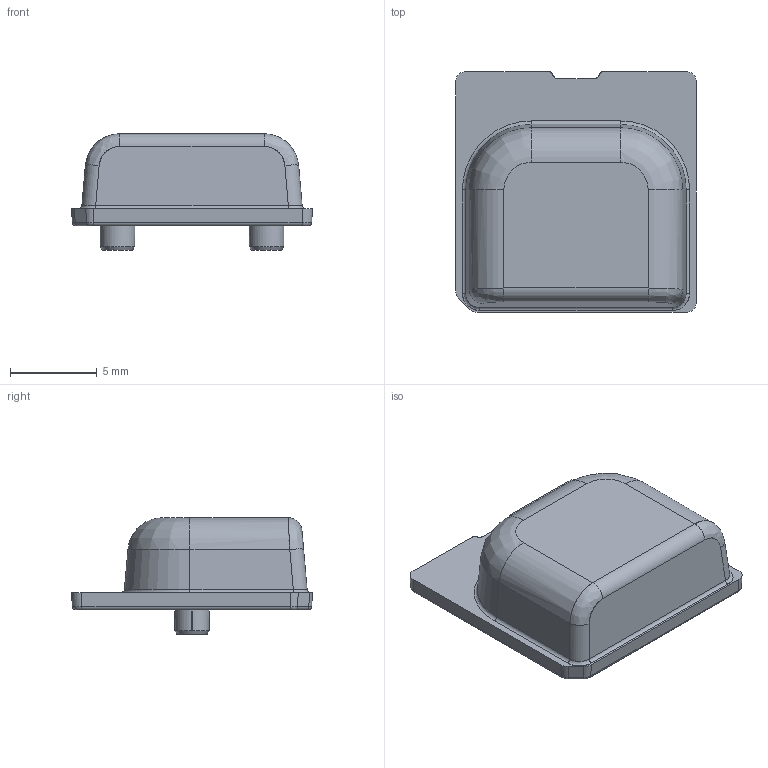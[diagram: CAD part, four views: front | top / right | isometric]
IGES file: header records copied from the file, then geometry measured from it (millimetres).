
Start section: START RECORD GO HERE.
Global section: file name: C16006_STRADELLA-T1-A_mechanical model.igs; native system: DASSAULT SYSTEMES CATIA Version 5-6 Release 2013 - www.3ds.com; preprocessor: V5-6R2013_5.23.4.0.01-30-2014.20.00; author: arsi.siuvatti; organization: LEDIL; date: 20161213.110832; units: millimetre
Bounding box: 13.9 x 13.9 x 6.72 mm (x, y, z)
Surface area: 672 mm2 (no closed solid volume)
Topology: 0 solids, 0 shells, 162 faces, 764 edges, 758 vertices
Faces by surface type: revolution 91, bspline 36, plane 33, extrusion 2
